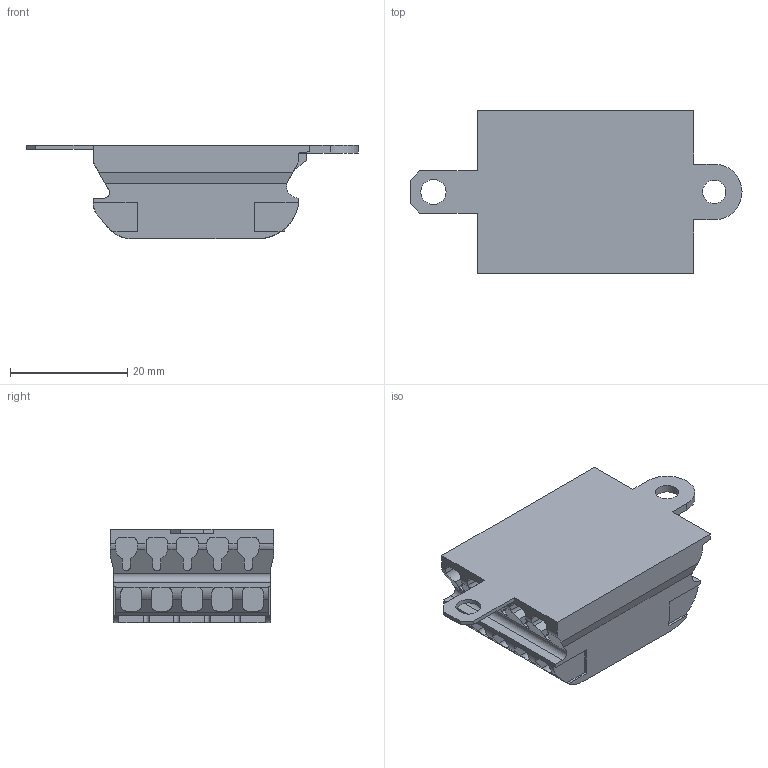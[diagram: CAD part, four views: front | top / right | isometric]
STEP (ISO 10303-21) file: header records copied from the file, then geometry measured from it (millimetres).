
FILE_DESCRIPTION(/* description */ ('Unknown'),/* implementation_level */ '2;1');
FILE_NAME(/* name */ '024-30W-03',/* time_stamp */ '2024-09-02T16:27:16+02:00',/* author */ ('Unknown'),/* organization */ ('Unknown'),/* preprocessor_version */ 'ST-DEVELOPER v16.7',/* originating_system */ 'Solid Edge',/* authorisation */ 'Unknown');
FILE_SCHEMA (('AUTOMOTIVE_DESIGN {1 0 10303 214 3 1 1}'));
Length unit declared in the file: millimetre
Products named in the file (3): 024-30W-03; 024-30L-02; 024-30W-02
Assembly tree (2 placements, depth 2):
  024-30W-03
    024-30L-02
    024-30W-02
Bounding box: 56.7 x 27.9 x 16.01 mm (x, y, z)
Volume: 11851.1 mm3; surface area: 6845.9 mm2
Topology: 21 solids, 21 shells, 638 faces, 1748 edges, 1163 vertices
Faces by surface type: plane 464, cylinder 170, bspline 4
Full cylindrical faces by diameter (mm): 2.134 x5, 4 x1, 4.3 x1, 4.63 x1, 5.21 x1
Entity records: 20445 total; most frequent: CARTESIAN_POINT 3898, ORIENTED_EDGE 3476, DIRECTION 3272, EDGE_CURVE 1738, LINE 1316, VECTOR 1316, VERTEX_POINT 1162, AXIS2_PLACEMENT_3D 978
